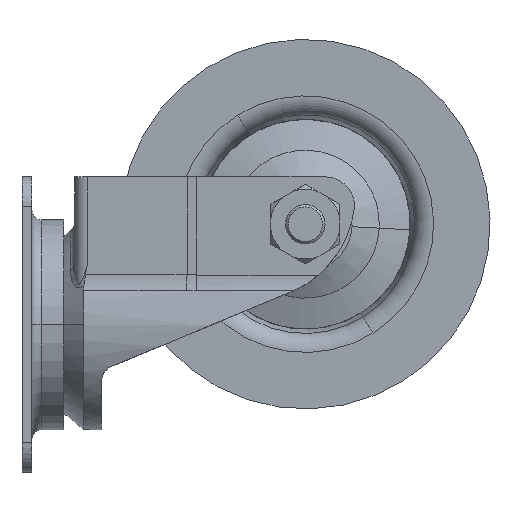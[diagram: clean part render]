
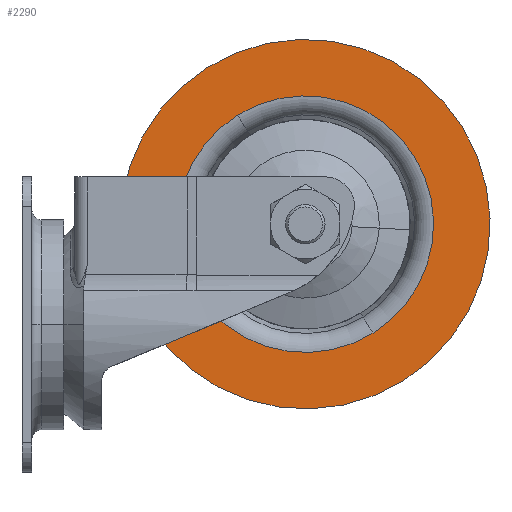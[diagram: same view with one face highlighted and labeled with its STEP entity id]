
A CAD part, left-side view. The second image highlights one B-rep face of the part: STEP entity #2290.
In plain terms, the highlighted planar face has unit normal (-1, 0, 0) as drawn and (0, 0, 1) by its records, which use the part's own axes.
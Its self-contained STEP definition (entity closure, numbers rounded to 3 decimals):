
#74 = CIRCLE ( 'NONE', #2176, 37.5 ) ;
#211 = VERTEX_POINT ( 'NONE', #3318 ) ;
#337 = DIRECTION ( 'NONE',  ( 1., 0., 0. ) ) ;
#424 = EDGE_CURVE ( 'NONE', #1971, #2135, #1240, .T. ) ;
#540 = AXIS2_PLACEMENT_3D ( 'NONE', #3087, #7093, #3659 ) ;
#1214 = EDGE_LOOP ( 'NONE', ( #3433, #3949 ) ) ;
#1240 = CIRCLE ( 'NONE', #3281, 37.5 ) ;
#1279 = CARTESIAN_POINT ( 'NONE',  ( 0., 0., 11. ) ) ;
#1299 = DIRECTION ( 'NONE',  ( 0., 0., 1. ) ) ;
#1351 = FACE_OUTER_BOUND ( 'NONE', #1214, .T. ) ;
#1524 = FACE_BOUND ( 'NONE', #3134, .T. ) ;
#1965 = ORIENTED_EDGE ( 'NONE', *, *, #6545, .T. ) ;
#1971 = VERTEX_POINT ( 'NONE', #2242 ) ;
#2135 = VERTEX_POINT ( 'NONE', #3462 ) ;
#2176 = AXIS2_PLACEMENT_3D ( 'NONE', #2455, #6452, #3030 ) ;
#2242 = CARTESIAN_POINT ( 'NONE',  ( 37.5, 0., 11. ) ) ;
#2290 = ADVANCED_FACE ( 'NONE', ( #1524, #1351 ), #4725, .T. ) ;
#2455 = CARTESIAN_POINT ( 'NONE',  ( 0., 0., 11. ) ) ;
#2967 = DIRECTION ( 'NONE',  ( 0., 0., 1. ) ) ;
#3030 = DIRECTION ( 'NONE',  ( 1., 0., 0. ) ) ;
#3087 = CARTESIAN_POINT ( 'NONE',  ( 0., 0., 11. ) ) ;
#3134 = EDGE_LOOP ( 'NONE', ( #5341, #1965 ) ) ;
#3281 = AXIS2_PLACEMENT_3D ( 'NONE', #6380, #2967, #6956 ) ;
#3318 = CARTESIAN_POINT ( 'NONE',  ( 26.04, 0., 11. ) ) ;
#3433 = ORIENTED_EDGE ( 'NONE', *, *, #5637, .T. ) ;
#3462 = CARTESIAN_POINT ( 'NONE',  ( -37.5, 0., 11. ) ) ;
#3659 = DIRECTION ( 'NONE',  ( 1., 0., 0. ) ) ;
#3748 = DIRECTION ( 'NONE',  ( 0., 0., -1. ) ) ;
#3939 = CARTESIAN_POINT ( 'NONE',  ( -26.04, 0., 11. ) ) ;
#3949 = ORIENTED_EDGE ( 'NONE', *, *, #424, .T. ) ;
#4169 = CIRCLE ( 'NONE', #5007, 26.04 ) ;
#4344 = EDGE_CURVE ( 'NONE', #211, #4679, #6078, .T. ) ;
#4643 = AXIS2_PLACEMENT_3D ( 'NONE', #1279, #1299, #5287 ) ;
#4679 = VERTEX_POINT ( 'NONE', #3939 ) ;
#4725 = PLANE ( 'NONE',  #4643 ) ;
#5007 = AXIS2_PLACEMENT_3D ( 'NONE', #7174, #3748, #337 ) ;
#5287 = DIRECTION ( 'NONE',  ( 1., 0., 0. ) ) ;
#5341 = ORIENTED_EDGE ( 'NONE', *, *, #4344, .T. ) ;
#5637 = EDGE_CURVE ( 'NONE', #2135, #1971, #74, .T. ) ;
#6078 = CIRCLE ( 'NONE', #540, 26.04 ) ;
#6380 = CARTESIAN_POINT ( 'NONE',  ( 0., 0., 11. ) ) ;
#6452 = DIRECTION ( 'NONE',  ( 0., 0., 1. ) ) ;
#6545 = EDGE_CURVE ( 'NONE', #4679, #211, #4169, .T. ) ;
#6956 = DIRECTION ( 'NONE',  ( 1., 0., 0. ) ) ;
#7093 = DIRECTION ( 'NONE',  ( 0., 0., -1. ) ) ;
#7174 = CARTESIAN_POINT ( 'NONE',  ( 0., 0., 11. ) ) ;
